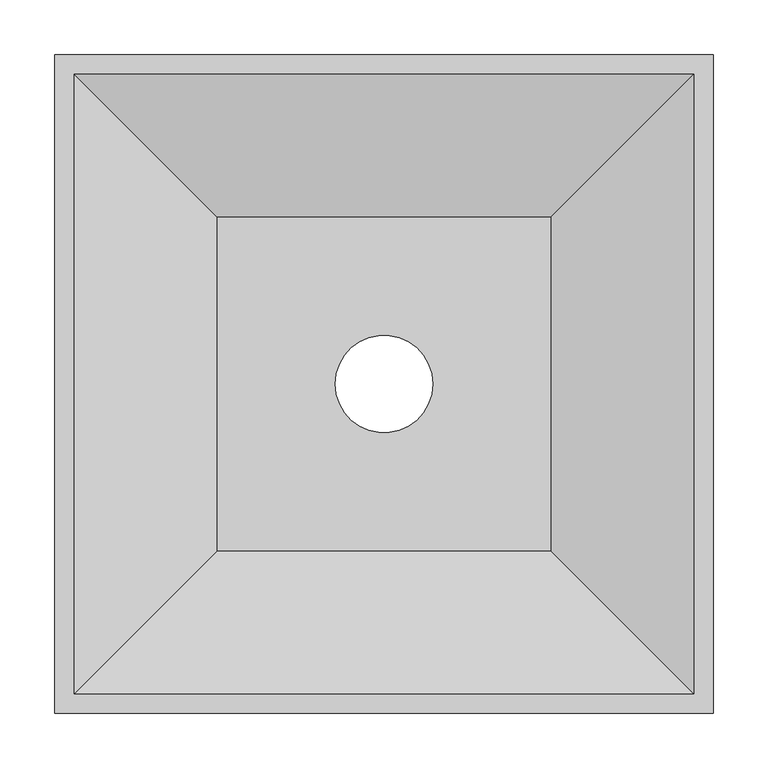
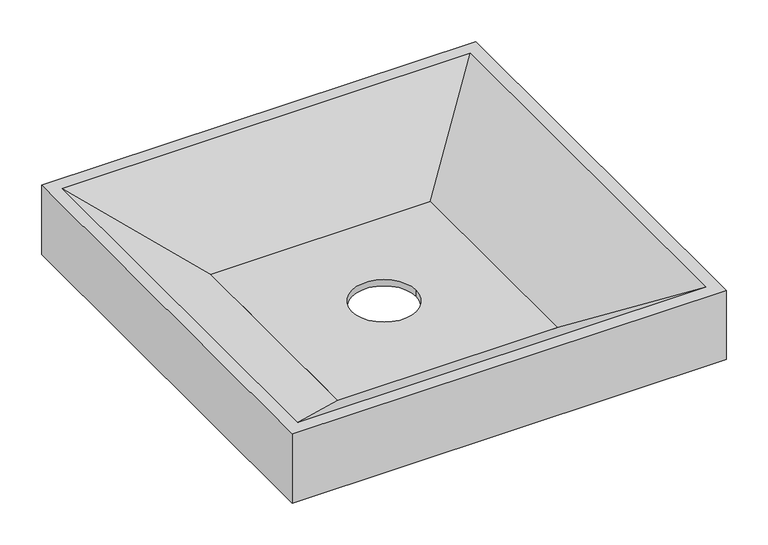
"""IFC4 building model written with IfcOpenShell, lengths in millimetres: proxy geometry, Turf_Pantheon Tile : Pantheon A."""

import ifcopenshell
import ifcopenshell.guid

model = None  # the IFC model being written
_history = None  # IfcOwnerHistory: only IFC2X3 demands one
_inside = {}  # id of a spatial element -> (the spatial element, [elements in it])
_under = {}  # id of a project, library or spatial element -> (it, [spatial elements below it])
_declared = {}  # id of a project -> (the project, [libraries it declares])
_typed = {}  # id of a type object -> (the type object, [elements of that type])
_made_of = {}  # id of a material, layer set ... -> (it, [elements and type objects made of it])


def new_model(schema):
    """Start an empty IFC model of exactly this schema.

    Asked for "IFC4X3", IfcOpenShell would pick the latest addendum, in which some entities
    have other attributes; the version numbers below select the first issue.
    IFC2X3 requires an IfcOwnerHistory on every rooted entity: one is made here for all.
    """
    global model, _history
    if schema == "IFC4X3":
        model = ifcopenshell.file(schema_version=(4, 3, 0, 0))
    else:
        model = ifcopenshell.file(schema=schema)
    _inside.clear()
    _under.clear()
    _declared.clear()
    _typed.clear()
    _made_of.clear()
    _history = None
    if model.schema == "IFC2X3":
        org = make("IfcOrganization", Name="unknown")
        user = make(
            "IfcPersonAndOrganization",
            ThePerson=make("IfcPerson", FamilyName="unknown"),
            TheOrganization=org,
        )
        app = make(
            "IfcApplication",
            ApplicationDeveloper=org,
            Version="unknown",
            ApplicationFullName="unknown",
            ApplicationIdentifier="unknown",
        )
        _history = make(
            "IfcOwnerHistory",
            OwningUser=user,
            OwningApplication=app,
            ChangeAction="ADDED",
            CreationDate=0,
        )
    return model


def make(cls, **values):
    """One entity of the class cls with the attributes given. An attribute that is None is left unset."""
    return model.create_entity(
        cls, **{name: value for name, value in values.items() if value is not None}
    )


def rooted(cls, **values):
    """An entity with a GlobalId (a new one), such as an element, a storey or a relation."""
    return make(cls, GlobalId=ifcopenshell.guid.new(), OwnerHistory=_history, **values)


def si_unit(unit_type, name, prefix=None):
    """IfcSIUnit, for example si_unit("LENGTHUNIT", "METRE", prefix="MILLI")."""
    return make("IfcSIUnit", UnitType=unit_type, Prefix=prefix, Name=name)


def assignment(units):
    """IfcUnitAssignment: the units of a project."""
    return None if units is None else make("IfcUnitAssignment", Units=units)


def point(xyz):
    """IfcCartesianPoint."""
    return None if xyz is None else make("IfcCartesianPoint", Coordinates=xyz)


def direction(xyz):
    """IfcDirection."""
    return None if xyz is None else make("IfcDirection", DirectionRatios=xyz)


def frame(location, z_axis=None, x_axis=None):
    """IfcAxis2Placement3D, a coordinate frame: its origin and axes. An axis left out is left unset."""
    return make(
        "IfcAxis2Placement3D",
        Location=point(location),
        Axis=direction(z_axis),
        RefDirection=direction(x_axis),
    )


def frame_2d(location, x_axis=None):
    """IfcAxis2Placement2D, a coordinate frame in the plane: its origin and x axis."""
    return make(
        "IfcAxis2Placement2D", Location=point(location), RefDirection=direction(x_axis)
    )


def origin():
    """The frame at (0, 0, 0) with its axes left unset."""
    return frame((0.0, 0.0, 0.0))


def origin_with_axes():
    """The frame at (0, 0, 0) with the z axis (0, 0, 1) and the x axis (1, 0, 0) written out."""
    return frame((0.0, 0.0, 0.0), z_axis=(0.0, 0.0, 1.0), x_axis=(1.0, 0.0, 0.0))


def place(relative_to, where):
    """IfcLocalPlacement: puts the frame where relative to a parent placement (None: the world)."""
    return make(
        "IfcLocalPlacement", PlacementRelTo=relative_to, RelativePlacement=where
    )


def context(
    kind, dimensions, precision=None, world=None, true_north=None, identifier=None
):
    """IfcGeometricRepresentationContext, for example the 3D "Model" context."""
    return make(
        "IfcGeometricRepresentationContext",
        ContextIdentifier=identifier,
        ContextType=kind,
        CoordinateSpaceDimension=dimensions,
        Precision=precision,
        WorldCoordinateSystem=world,
        TrueNorth=true_north,
    )


def project(units=None, contexts=None):
    """IfcProject with its units and contexts."""
    return rooted(
        "IfcProject",
        Name="project",
        RepresentationContexts=contexts,
        UnitsInContext=assignment(units),
    )


def spatial(cls, under=None, at=None, **own):
    """A site, building, storey or space (cls), placed at a placement, below another one or the project."""
    s = rooted(cls, ObjectPlacement=at, **own)
    if under is not None:
        _under.setdefault(under.id(), (under, []))[1].append(s)
    return s


def polyline(points):
    """IfcPolyline through the points."""
    return make("IfcPolyline", Points=[point(p) for p in points])


def circle_curve(where, radius):
    """IfcCircle in the frame where."""
    return make("IfcCircle", Position=where, Radius=radius)


def trimmed(basis, trim1, trim2, sense, master):
    """IfcTrimmedCurve: the piece of a basis curve between two trims."""
    return make(
        "IfcTrimmedCurve",
        BasisCurve=basis,
        Trim1=trim1,
        Trim2=trim2,
        SenseAgreement=sense,
        MasterRepresentation=master,
    )


def segment(curve, same_sense, transition):
    """IfcCompositeCurveSegment."""
    return make(
        "IfcCompositeCurveSegment",
        Transition=transition,
        SameSense=same_sense,
        ParentCurve=curve,
    )


def composite_curve(segments, self_intersect=None):
    """IfcCompositeCurve: segments joined end to end."""
    return make("IfcCompositeCurve", Segments=segments, SelfIntersect=self_intersect)


def outline(outer, holes=None, kind="AREA"):
    """IfcArbitraryClosedProfileDef: a profile drawn as a closed curve; with holes, ...WithVoids."""
    if holes is None:
        return make("IfcArbitraryClosedProfileDef", ProfileType=kind, OuterCurve=outer)
    return make(
        "IfcArbitraryProfileDefWithVoids",
        ProfileType=kind,
        OuterCurve=outer,
        InnerCurves=holes,
    )


def extrude(swept, where, along, depth):
    """IfcExtrudedAreaSolid: the profile swept, set in the frame where, extruded along a direction by depth."""
    return make(
        "IfcExtrudedAreaSolid",
        SweptArea=swept,
        Position=where,
        ExtrudedDirection=direction(along),
        Depth=depth,
    )


def faces_of(points, faces, orient=None, outer=None):
    """IfcFace entities. A face is a list of loops; a loop is a list of indices into points, from 0.

    orient and outer hold one flag for each loop. By default every Orientation is true, the
    first loop of a face is its IfcFaceOuterBound and the others are IfcFaceBound.
    """
    made = []
    for i, loops in enumerate(faces):
        bounds = []
        for j, loop in enumerate(loops):
            is_outer = j == 0 if outer is None else outer[i][j]
            bounds.append(
                make(
                    "IfcFaceOuterBound" if is_outer else "IfcFaceBound",
                    Bound=make("IfcPolyLoop", Polygon=[points[k] for k in loop]),
                    Orientation=True if orient is None else orient[i][j],
                )
            )
        made.append(make("IfcFace", Bounds=bounds))
    return made


def faceted_brep(points, faces, orient=None, outer=None, voids=None):
    """IfcFacetedBrep: a solid bounded by flat faces; with voids (closed shells), ...WithVoids."""
    shared = [point(p) for p in points]
    hull = make("IfcClosedShell", CfsFaces=faces_of(shared, faces, orient, outer))
    if voids is None:
        return make("IfcFacetedBrep", Outer=hull)
    return make(
        "IfcFacetedBrepWithVoids",
        Outer=hull,
        Voids=[
            make(cls, CfsFaces=faces_of(shared, fs, o, b)) for cls, fs, o, b in voids
        ],
    )


def shape(context_of_items, identifier, shape_type, items):
    """IfcShapeRepresentation: the items that make up one representation, for example the "Body"."""
    return make(
        "IfcShapeRepresentation",
        ContextOfItems=context_of_items,
        RepresentationIdentifier=identifier,
        RepresentationType=shape_type,
        Items=items,
    )


def source(mapping_origin, context_of_items, identifier, shape_type, items):
    """IfcRepresentationMap: a shape defined once, which mapped items show again and again."""
    return make(
        "IfcRepresentationMap",
        MappingOrigin=mapping_origin,
        MappedRepresentation=shape(context_of_items, identifier, shape_type, items),
    )


def transform(
    local_origin,
    x_axis=None,
    y_axis=None,
    z_axis=None,
    scale=None,
    scale2=None,
    scale3=None,
    uniform=True,
):
    """IfcCartesianTransformationOperator3D, or its non-uniform kind. x_axis, y_axis, z_axis: its Axis1, 2, 3."""
    if uniform:
        return make(
            "IfcCartesianTransformationOperator3D",
            Axis1=direction(x_axis),
            Axis2=direction(y_axis),
            LocalOrigin=point(local_origin),
            Scale=scale,
            Axis3=direction(z_axis),
        )
    return make(
        "IfcCartesianTransformationOperator3DnonUniform",
        Axis1=direction(x_axis),
        Axis2=direction(y_axis),
        LocalOrigin=point(local_origin),
        Scale=scale,
        Axis3=direction(z_axis),
        Scale2=scale2,
        Scale3=scale3,
    )


def mapped(mapping_source, mapping_target):
    """IfcMappedItem: shows the shape of a source again, moved by a transform."""
    return make(
        "IfcMappedItem", MappingSource=mapping_source, MappingTarget=mapping_target
    )


def made_of(thing, what):
    """Note that an element or type object is made of a material, layer set ...; save() writes the relation."""
    if what is not None:
        _made_of.setdefault(what.id(), (what, []))[1].append(thing)
    return thing


def element(
    cls,
    number,
    at=None,
    inside=None,
    cuts=None,
    type_object=None,
    material=None,
    context=None,
    identifier="Body",
    shape_type=None,
    held_by="IfcProductDefinitionShape",
    body=None,
    shapes=None,
    **own,
):
    """One element of the class cls, such as IfcWall. Its Tag is "e" and its number.

    at: its placement. inside: the storey or other place that contains it. cuts: it is an
    opening in that element (IfcRelVoidsElement). A single representation is given by context,
    identifier, shape_type and body (its items); several are given by shapes. held_by: the class
    of the entity that holds the representations. save() writes the other relations.
    """
    e = rooted(cls, Tag="e%d" % number, ObjectPlacement=at, **own)
    if body is not None:
        shapes = [shape(context, identifier, shape_type, body)]
    if shapes is not None:
        e.Representation = make(held_by, Representations=shapes)
    if inside is not None:
        _inside.setdefault(inside.id(), (inside, []))[1].append(e)
    if cuts is not None:
        rooted(
            "IfcRelVoidsElement", RelatingBuildingElement=cuts, RelatedOpeningElement=e
        )
    if type_object is not None:
        _typed.setdefault(type_object.id(), (type_object, []))[1].append(e)
    return made_of(e, material)


def aggregate(whole, parts):
    """IfcRelAggregates: a whole, such as a stair, and the parts it consists of."""
    return rooted("IfcRelAggregates", RelatingObject=whole, RelatedObjects=parts)


def save(model, path):
    """Write the relations noted so far, then the file.

    IfcRelAggregates (storeys below a building ...), IfcRelContainedInSpatialStructure (elements
    in a storey), IfcRelDefinesByType, IfcRelAssociatesMaterial and IfcRelDeclares: one each for
    every whole, place, type object, material and project.
    """
    for whole, parts in _under.values():
        aggregate(whole, parts)
    for where, things in _inside.values():
        rooted(
            "IfcRelContainedInSpatialStructure",
            RelatedElements=things,
            RelatingStructure=where,
        )
    for kind, things in _typed.values():
        rooted("IfcRelDefinesByType", RelatedObjects=things, RelatingType=kind)
    for what, things in _made_of.values():
        rooted("IfcRelAssociatesMaterial", RelatedObjects=things, RelatingMaterial=what)
    for by, libraries in _declared.values():
        rooted("IfcRelDeclares", RelatingContext=by, RelatedDefinitions=libraries)
    model.write(path)


def specialty_equipment_d1a56c86(model_context):
    return source(origin(), model_context, "Body", "SolidModel", [
        extrude(outline(polyline([(196.05625, -495.3), (-108.74375, -495.3), (-108.74375, -190.5), (196.05625, -190.5), (196.05625, -495.3)]), holes=[composite_curve([segment(trimmed(circle_curve(frame_2d((43.65625, -342.9)), 44.45), [point((-0.79375, -342.9))], [point((88.10625, -342.9))], True, "CARTESIAN"), True, "CONTINUOUS"), segment(trimmed(circle_curve(frame_2d((43.65625, -342.9)), 44.45), [point((88.10625, -342.9))], [point((-0.79375, -342.9))], True, "CARTESIAN"), True, "CONTINUOUS")], self_intersect=False)]), origin_with_axes(), (0.0, 0.0, 1.0), 9.0289063),
        faceted_brep([(196.05625, -495.3, 9.0289062), (326.5289063, -625.7726563, 101.6), (326.5289063, -60.0273438, 101.6), (196.05625, -190.5, 9.0289062), (-239.2164062, -60.0273438, 101.6), (-108.74375, -190.5, 9.0289062), (-239.2164062, -625.7726563, 101.6), (-108.74375, -495.3, 9.0289062), (344.4875, -42.06875, 101.6), (-257.175, -42.06875, 101.6), (-257.175, -643.73125, 101.6), (344.4875, -643.73125, 101.6), (344.4875, -42.06875, 0.0), (344.4875, -643.73125, 0.0), (-257.175, -643.73125, 0.0), (-257.175, -42.06875, 0.0), (196.05625, -495.3, 0.0), (196.05625, -190.5, 0.0), (-108.74375, -190.5, 0.0), (-108.74375, -495.3, 0.0)], [[[0, 1, 2, 3]], [[3, 2, 4, 5]], [[5, 4, 6, 7]], [[1, 0, 7, 6]], [[8, 9, 10, 11], [2, 1, 6, 4]], [[12, 13, 14, 15], [16, 17, 18, 19]], [[9, 8, 12, 15]], [[10, 9, 15, 14]], [[11, 10, 14, 13]], [[8, 11, 13, 12]], [[3, 17, 16, 0]], [[17, 3, 5, 18]], [[18, 5, 7, 19]], [[0, 16, 19, 7]]]),
    ])


if __name__ == "__main__":
    model = new_model("IFC4")
    model_context = context("Model", 3, world=origin())
    ifc_project = project(units=[si_unit("LENGTHUNIT", "METRE", prefix="MILLI")], contexts=[model_context])
    site = spatial("IfcSite", under=ifc_project)
    building = spatial("IfcBuilding", under=site)
    placement = place(None, origin())
    specialty_equipment_shape = specialty_equipment_d1a56c86(model_context)
    element("IfcBuildingElementProxy", 1, Name="Turf_Pantheon Tile : Pantheon A", ObjectType="Turf_Pantheon Tile : Pantheon A", at=placement, inside=building, context=model_context, shape_type="MappedRepresentation", body=[
        mapped(specialty_equipment_shape, transform((0.0, 0.0, 0.0), x_axis=(1.0, 0.0, 0.0), y_axis=(0.0, 1.0, 0.0), z_axis=(0.0, 0.0, 1.0))),
    ])
    save(model, "model.ifc")
